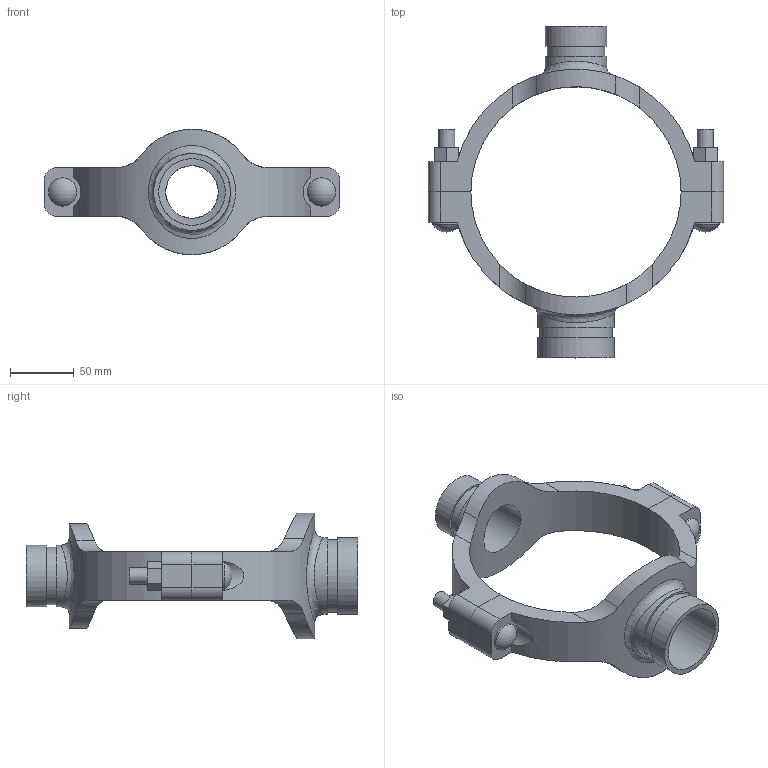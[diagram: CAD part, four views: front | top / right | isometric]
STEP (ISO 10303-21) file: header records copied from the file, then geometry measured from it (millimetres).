
FILE_DESCRIPTION(/* description */ ('VIC MECH-T BRANCH OUTLET CROSS STYLE 920N (GRVD)','CAx-IF Rec.Pracs.---Representation and Presentation of Product Manufacturing Information (PMI)---4.0---2014-10-13'),/* implementation_level */ '2;1');
FILE_NAME(/* name */ 'C:\Users\Vjadhav\AppData\Roaming\Autodesk\ApplicationPlugins\Back Up\Victaulic_IPS_Mechanical-Cross Outlet_Style 920N (OGS)\Victaulic_IPS_Mechanical-Cross Outlet_06.0 (165.1)x01.5x02.0 (150x40x50).stp',/* time_stamp */ '2020-08-06T19:45:08+05:00',/* author */ ('Vjadhav'),/* organization */ ('Victaulic'),/* preprocessor_version */ 'ST-DEVELOPER v17.2',/* originating_system */ 'Autodesk Inventor 2019',/* authorisation */ '');
FILE_SCHEMA (('AP242_MANAGED_MODEL_BASED_3D_ENGINEERING_MIM_LF { 1 0 10303 442 1 1 4 }'));
Length unit declared in the file: inch
Products named in the file (3): 920NG-06.0 (165.1)x01.5x02.0; 920NG-06.0 (165.1)x01.5; 920NG-06.0 (165.1)x02.0
Assembly tree (2 placements, depth 2):
  920NG-06.0 (165.1)x01.5x02.0
    920NG-06.0 (165.1)x01.5
    920NG-06.0 (165.1)x02.0
Bounding box: 231.9 x 260.6 x 98.55 mm (x, y, z)
Volume: 449343.7 mm3; surface area: 116604.2 mm2
Topology: 2 solids, 2 shells, 108 faces, 274 edges, 186 vertices
Faces by surface type: plane 54, cylinder 50, sphere 2, bspline 2
Full cylindrical faces by diameter (mm): 12.7 x4, 22.225 x2, 41.275 x1, 45.085 x1, 48.26 x2, 52.387 x1, 57.15 x1, 60.325 x2
Entity records: 4374 total; most frequent: CARTESIAN_POINT 1493, DIRECTION 552, ORIENTED_EDGE 548, EDGE_CURVE 274, AXIS2_PLACEMENT_3D 201, VERTEX_POINT 186, LINE 150, VECTOR 150
